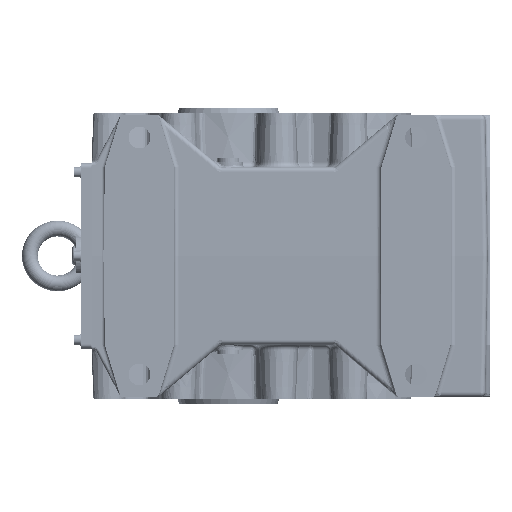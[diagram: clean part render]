
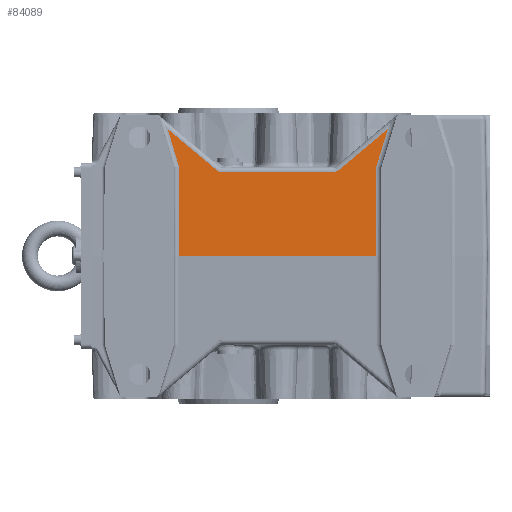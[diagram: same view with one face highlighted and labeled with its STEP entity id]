
A CAD part, left-side view. The second image highlights one B-rep face of the part: STEP entity #84089.
In plain terms, the highlighted planar face has unit normal (-1, 0, 0.018).
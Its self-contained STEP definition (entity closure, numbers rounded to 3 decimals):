
#43956=CARTESIAN_POINT('',(-156.571,-150.0,0.0));
#43957=VERTEX_POINT('',#43956);
#44007=CARTESIAN_POINT('',(-154.989,-150.0,90.651));
#44008=VERTEX_POINT('',#44007);
#44016=CARTESIAN_POINT('',(-154.989,-150.0,90.651));
#44017=DIRECTION('',(-0.017,0.0,-1.));
#44018=VECTOR('',#44017,90.665);
#44019=LINE('',#44016,#44018);
#44020=EDGE_CURVE('',#44008,#43957,#44019,.T.);
#44396=CARTESIAN_POINT('',(-156.571,50.,0.0));
#44397=VERTEX_POINT('',#44396);
#44405=CARTESIAN_POINT('',(-154.989,50.,90.651));
#44406=VERTEX_POINT('',#44405);
#44407=CARTESIAN_POINT('',(-156.571,50.,0.));
#44408=DIRECTION('',(0.017,0.0,1.));
#44409=VECTOR('',#44408,90.665);
#44410=LINE('',#44407,#44409);
#44411=EDGE_CURVE('',#44397,#44406,#44410,.T.);
#74776=CARTESIAN_POINT('',(-155.086,6.017,85.087));
#74777=VERTEX_POINT('',#74776);
#74785=CARTESIAN_POINT('',(-155.086,-106.017,85.087));
#74786=VERTEX_POINT('',#74785);
#74787=CARTESIAN_POINT('',(-155.086,6.017,85.087));
#74788=DIRECTION('',(0.0,-1.0,0.0));
#74789=VECTOR('',#74788,112.034);
#74790=LINE('',#74787,#74789);
#74791=EDGE_CURVE('',#74777,#74786,#74790,.T.);
#74826=CARTESIAN_POINT('',(-155.045,12.445,87.427));
#74827=VERTEX_POINT('',#74826);
#74835=CARTESIAN_POINT('',(-154.911,6.017,95.087));
#74836=DIRECTION('',(-1.,0.,0.017));
#74837=DIRECTION('',(-0.017,0.,-1.));
#74838=AXIS2_PLACEMENT_3D('',#74835,#74836,#74837);
#74839=ELLIPSE('',#74838,10.002,10.);
#74840=EDGE_CURVE('',#74827,#74777,#74839,.T.);
#74860=CARTESIAN_POINT('',(-154.327,61.437,128.536));
#74861=VERTEX_POINT('',#74860);
#74869=CARTESIAN_POINT('',(-154.327,61.437,128.536));
#74870=DIRECTION('',(-0.011,-0.766,-0.643));
#74871=VECTOR('',#74870,63.958);
#74872=LINE('',#74869,#74871);
#74873=EDGE_CURVE('',#74861,#74827,#74872,.T.);
#83780=CARTESIAN_POINT('',(-156.571,-150.0,0.0));
#83781=DIRECTION('',(0.0,1.0,0.0));
#83782=VECTOR('',#83781,200.);
#83783=LINE('',#83780,#83782);
#83784=EDGE_CURVE('',#44397,#43957,#83783,.F.);
#83829=CARTESIAN_POINT('',(-155.045,-112.445,87.427));
#83830=VERTEX_POINT('',#83829);
#83848=CARTESIAN_POINT('',(-154.911,-106.017,95.087));
#83849=DIRECTION('',(-1.,0.,0.017));
#83850=DIRECTION('',(-0.017,0.,-1.));
#83851=AXIS2_PLACEMENT_3D('',#83848,#83849,#83850);
#83852=ELLIPSE('',#83851,10.002,10.0);
#83853=EDGE_CURVE('',#74786,#83830,#83852,.T.);
#83863=CARTESIAN_POINT('',(-154.327,-161.437,128.536));
#83864=VERTEX_POINT('',#83863);
#83881=CARTESIAN_POINT('',(-155.045,-112.445,87.427));
#83882=DIRECTION('',(0.011,-0.766,0.643));
#83883=VECTOR('',#83882,63.958);
#83884=LINE('',#83881,#83883);
#83885=EDGE_CURVE('',#83830,#83864,#83884,.T.);
#84056=CARTESIAN_POINT('',(-154.327,-161.437,128.536));
#84057=DIRECTION('',(-0.017,0.289,-0.957));
#84058=VECTOR('',#84057,39.579);
#84059=LINE('',#84056,#84058);
#84060=EDGE_CURVE('',#83864,#44008,#84059,.T.);
#84067=CARTESIAN_POINT('',(-156.571,-260.0,0.014));
#84068=DIRECTION('',(-1.,0.,0.017));
#84069=DIRECTION('',(0.017,0.,1.));
#84070=AXIS2_PLACEMENT_3D('',#84067,#84068,#84069);
#84071=PLANE('',#84070);
#84072=ORIENTED_EDGE('',*,*,#83885,.F.);
#84073=ORIENTED_EDGE('',*,*,#83853,.F.);
#84074=ORIENTED_EDGE('',*,*,#74791,.F.);
#84075=ORIENTED_EDGE('',*,*,#74840,.F.);
#84076=ORIENTED_EDGE('',*,*,#74873,.F.);
#84077=CARTESIAN_POINT('',(-154.989,50.,90.651));
#84078=DIRECTION('',(0.017,0.289,0.957));
#84079=VECTOR('',#84078,39.579);
#84080=LINE('',#84077,#84079);
#84081=EDGE_CURVE('',#44406,#74861,#84080,.T.);
#84082=ORIENTED_EDGE('',*,*,#84081,.F.);
#84083=ORIENTED_EDGE('',*,*,#44411,.F.);
#84084=ORIENTED_EDGE('',*,*,#83784,.T.);
#84085=ORIENTED_EDGE('',*,*,#44020,.F.);
#84086=ORIENTED_EDGE('',*,*,#84060,.F.);
#84087=EDGE_LOOP('',(#84072,#84073,#84074,#84075,#84076,#84082,#84083,#84084,#84085,#84086));
#84088=FACE_OUTER_BOUND('',#84087,.T.);
#84089=ADVANCED_FACE('',(#84088),#84071,.T.);
